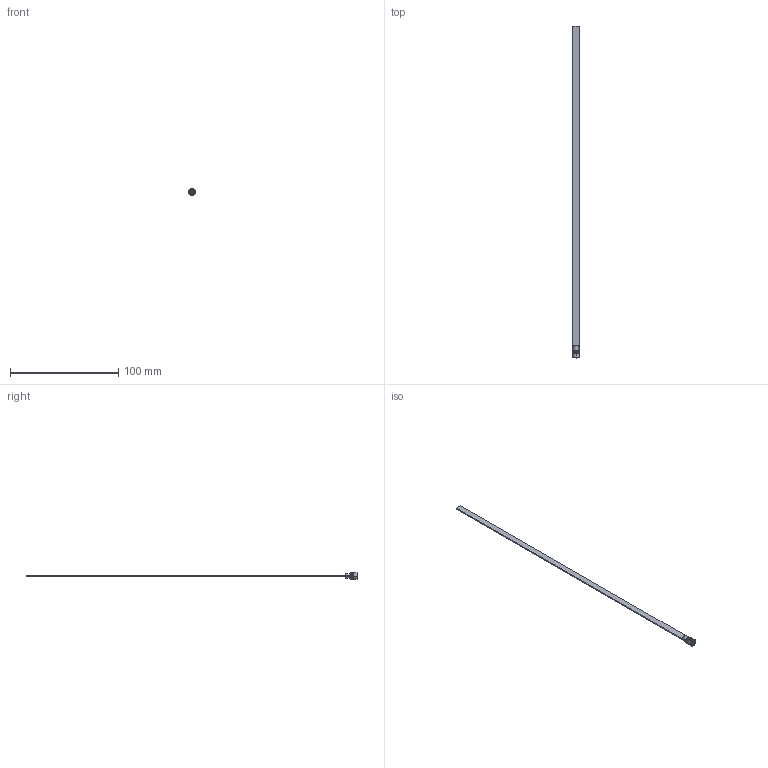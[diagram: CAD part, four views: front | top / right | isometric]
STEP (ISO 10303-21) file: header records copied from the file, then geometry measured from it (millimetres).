
FILE_DESCRIPTION (( 'STEP AP203' ), '1' );
FILE_NAME ('RL6Fx300.STEP', '2015-12-02T09:32:33', ( 'Balzi' ), ( '' ), 'SwSTEP 2.0', 'SolidWorks 2015', '' );
FILE_SCHEMA (( 'CONFIG_CONTROL_DESIGN' ));
Length unit declared in the file: millimetre
Products named in the file (1): RL6Fx300
Bounding box: 6.8 x 307 x 6.8 mm (x, y, z)
Volume: 1940.9 mm3; surface area: 4450.9 mm2
Topology: 1 solids, 1 shells, 62 faces, 150 edges, 96 vertices
Faces by surface type: plane 28, cylinder 15, cone 12, torus 7
Entity records: 1920 total; most frequent: CARTESIAN_POINT 379, DIRECTION 313, ORIENTED_EDGE 300, EDGE_CURVE 150, AXIS2_PLACEMENT_3D 118, VERTEX_POINT 96, VECTOR 77, LINE 77
